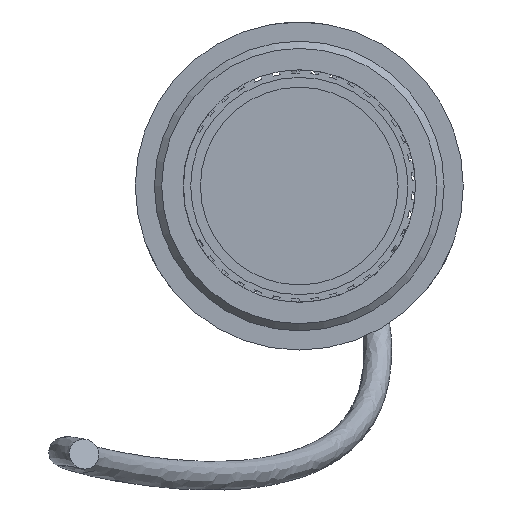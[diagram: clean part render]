
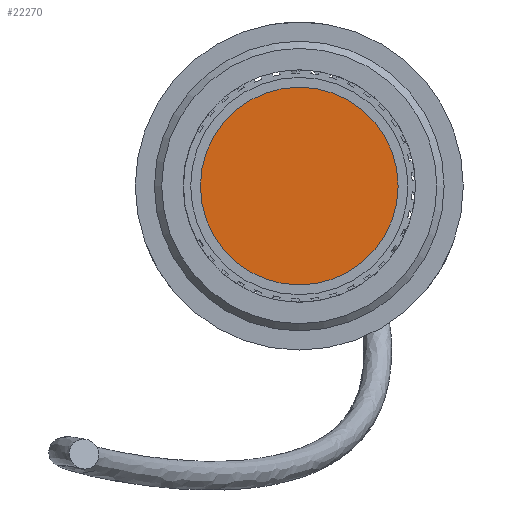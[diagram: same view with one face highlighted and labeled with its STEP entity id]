
A CAD part, front view. The second image highlights one B-rep face of the part: STEP entity #22270.
In plain terms, the highlighted planar face has unit normal (0, -1, 0).
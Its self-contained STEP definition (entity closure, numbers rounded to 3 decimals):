
#979=PLANE('',#24421);
#2258=FACE_OUTER_BOUND('',#3498,.T.);
#3498=EDGE_LOOP('',(#19879,#19880));
#8806=CIRCLE('',#24419,13.65);
#8807=CIRCLE('',#24420,13.65);
#10797=VERTEX_POINT('',#39902);
#10798=VERTEX_POINT('',#39904);
#13869=EDGE_CURVE('',#10798,#10797,#8806,.T.);
#13870=EDGE_CURVE('',#10797,#10798,#8807,.T.);
#19879=ORIENTED_EDGE('',*,*,#13869,.T.);
#19880=ORIENTED_EDGE('',*,*,#13870,.T.);
#22270=ADVANCED_FACE('',(#2258),#979,.T.);
#24419=AXIS2_PLACEMENT_3D('',#39905,#30135,#30136);
#24420=AXIS2_PLACEMENT_3D('',#39906,#30137,#30138);
#24421=AXIS2_PLACEMENT_3D('',#39907,#30139,#30140);
#30135=DIRECTION('center_axis',(0.,-1.,0.));
#30136=DIRECTION('ref_axis',(1.,0.,0.));
#30137=DIRECTION('center_axis',(0.,-1.,0.));
#30138=DIRECTION('ref_axis',(1.,0.,0.));
#30139=DIRECTION('center_axis',(0.,-1.,0.));
#30140=DIRECTION('ref_axis',(0.,0.,-1.));
#39902=CARTESIAN_POINT('',(-13.65,0.,0.));
#39904=CARTESIAN_POINT('',(13.65,0.,0.));
#39905=CARTESIAN_POINT('Origin',(0.,0.,
0.));
#39906=CARTESIAN_POINT('Origin',(0.,0.,
0.));
#39907=CARTESIAN_POINT('Origin',(0.,0.,0.));
